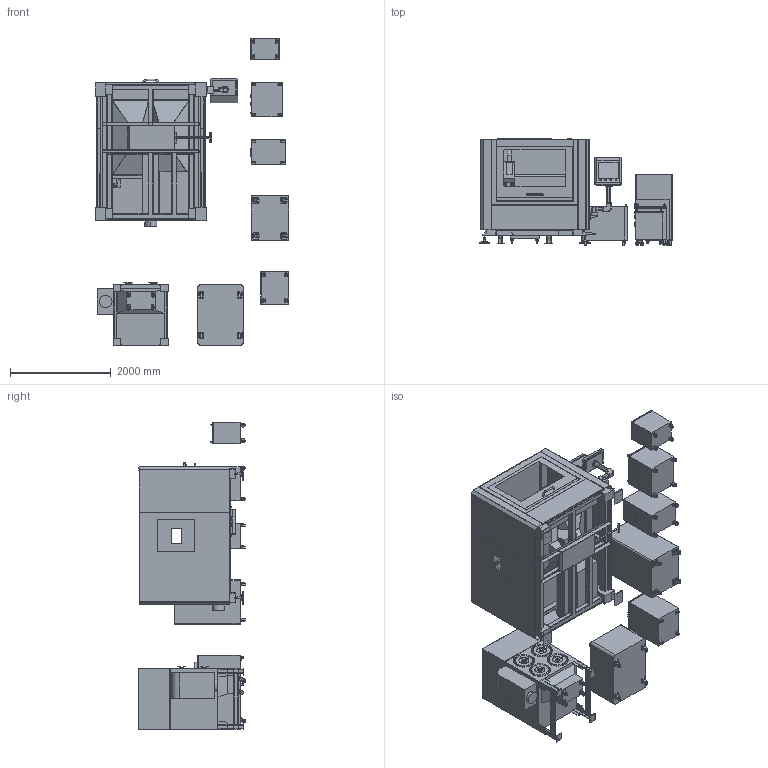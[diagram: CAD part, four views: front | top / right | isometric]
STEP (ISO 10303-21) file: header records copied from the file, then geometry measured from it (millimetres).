
FILE_DESCRIPTION (( 'STEP AP203' ), '1' );
FILE_NAME ('HFL-1313-3.STEP', '2026-07-22T22:26:09', ( '' ), ( '' ), 'SwSTEP 2.0', 'SolidWorks 2025', '' );
FILE_SCHEMA (( 'CONFIG_CONTROL_DESIGN' ));
Length unit declared in the file: inch
Products named in the file (15): HFL-1313-3; Servo Xtrans; Laser Power Source Cabinet; Leveling Pads; Control Panel; Drawer; X-Axis; Base; Electrical Cabinet; Dust Collector; Cutting Head; Water Chiller; Main Power Xtrans; Voltage Regulator; Enclosure
Assembly tree (14 placements, depth 2):
  HFL-1313-3
    Base
    Enclosure
    Control Panel
    Leveling Pads
    Drawer
    X-Axis
    Cutting Head
    Dust Collector
    Voltage Regulator
    Main Power Xtrans
    Electrical Cabinet
    Water Chiller
    Servo Xtrans
    Laser Power Source Cabinet
Bounding box: 3852.4 x 2137.78 x 6123.17 mm (x, y, z)
Volume: 5934873947.1 mm3; surface area: 141590071.3 mm2
Topology: 43 solids, 43 shells, 9633 faces, 27456 edges, 17857 vertices
Faces by surface type: plane 6224, cylinder 2941, bspline 298, torus 86, cone 54, sphere 30
Entity records: 348014 total; most frequent: CARTESIAN_POINT 94032, ORIENTED_EDGE 54832, DIRECTION 50829, EDGE_CURVE 27416, VECTOR 20309, LINE 20309, VERTEX_POINT 17857, AXIS2_PLACEMENT_3D 15260
